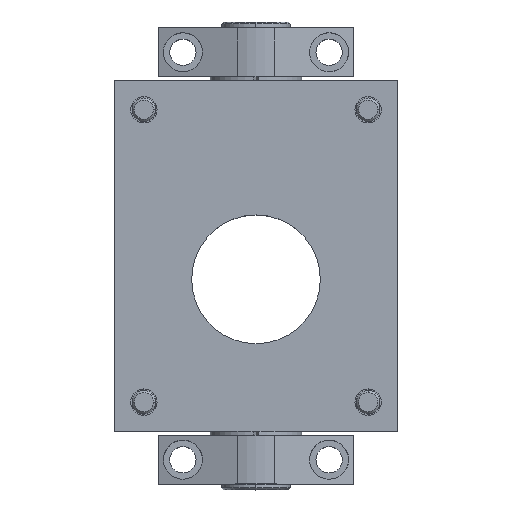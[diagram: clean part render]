
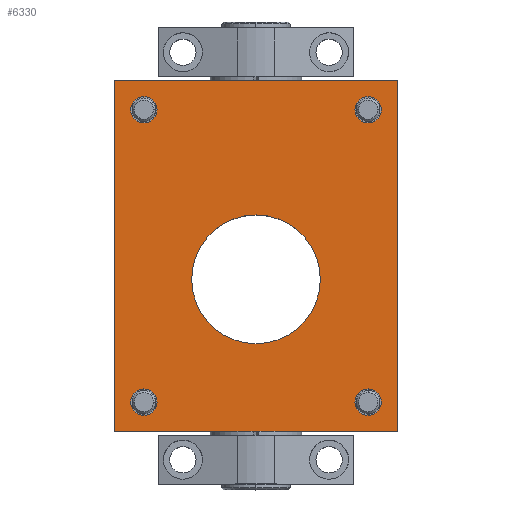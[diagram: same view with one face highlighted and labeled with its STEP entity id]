
A CAD part, top view. The second image highlights one B-rep face of the part: STEP entity #6330.
In plain terms, the highlighted planar face has unit normal (0, 0, 1).
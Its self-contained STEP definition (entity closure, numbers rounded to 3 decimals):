
#42 = CARTESIAN_POINT ( 'NONE',  ( -57.5, 87., -49.5 ) ) ;
#45 = DIRECTION ( 'NONE',  ( 0., -1., 0. ) ) ;
#129 = EDGE_CURVE ( 'NONE', #237, #3510, #3637, .T. ) ;
#148 = CARTESIAN_POINT ( 'NONE',  ( 0., 33., -49.5 ) ) ;
#179 = CIRCLE ( 'NONE', #3176, 6.75 ) ;
#211 = CARTESIAN_POINT ( 'NONE',  ( 72.5, -78., -49.5 ) ) ;
#237 = VERTEX_POINT ( 'NONE', #725 ) ;
#242 = CARTESIAN_POINT ( 'NONE',  ( 0., 0., -49.5 ) ) ;
#244 = CIRCLE ( 'NONE', #5482, 6.75 ) ;
#245 = EDGE_CURVE ( 'NONE', #6577, #3750, #244, .T. ) ;
#270 = CARTESIAN_POINT ( 'NONE',  ( -57.5, -69.75, -49.5 ) ) ;
#277 = AXIS2_PLACEMENT_3D ( 'NONE', #6279, #1631, #4757 ) ;
#366 = CARTESIAN_POINT ( 'NONE',  ( 57.5, 93.75, -49.5 ) ) ;
#381 = CIRCLE ( 'NONE', #1862, 6.75 ) ;
#398 = VERTEX_POINT ( 'NONE', #6479 ) ;
#464 = ORIENTED_EDGE ( 'NONE', *, *, #1015, .T. ) ;
#471 = EDGE_LOOP ( 'NONE', ( #6290, #5856, #2198, #6463 ) ) ;
#473 = VECTOR ( 'NONE', #1387, 1000. ) ;
#526 = DIRECTION ( 'NONE',  ( 0., 1., 0. ) ) ;
#532 = FACE_BOUND ( 'NONE', #3871, .T. ) ;
#685 = CIRCLE ( 'NONE', #2623, 33. ) ;
#725 = CARTESIAN_POINT ( 'NONE',  ( -72.5, 102., -49.5 ) ) ;
#731 = CARTESIAN_POINT ( 'NONE',  ( -72.5, -78., -49.5 ) ) ;
#840 = VERTEX_POINT ( 'NONE', #1011 ) ;
#872 = CIRCLE ( 'NONE', #5477, 6.75 ) ;
#909 = FACE_BOUND ( 'NONE', #2721, .T. ) ;
#965 = CARTESIAN_POINT ( 'NONE',  ( 57.5, 87., -49.5 ) ) ;
#1011 = CARTESIAN_POINT ( 'NONE',  ( -57.5, 80.25, -49.5 ) ) ;
#1015 = EDGE_CURVE ( 'NONE', #2189, #5121, #2065, .T. ) ;
#1066 = DIRECTION ( 'NONE',  ( 0., 0., -1. ) ) ;
#1212 = EDGE_CURVE ( 'NONE', #3510, #1968, #4374, .T. ) ;
#1267 = CARTESIAN_POINT ( 'NONE',  ( -57.5, -63., -49.5 ) ) ;
#1311 = LINE ( 'NONE', #731, #4226 ) ;
#1329 = DIRECTION ( 'NONE',  ( 0., 0., -1. ) ) ;
#1387 = DIRECTION ( 'NONE',  ( 0., -1., 0. ) ) ;
#1438 = AXIS2_PLACEMENT_3D ( 'NONE', #42, #2600, #526 ) ;
#1449 = EDGE_CURVE ( 'NONE', #398, #840, #1633, .T. ) ;
#1502 = FACE_BOUND ( 'NONE', #5911, .T. ) ;
#1532 = ORIENTED_EDGE ( 'NONE', *, *, #3318, .T. ) ;
#1594 = ORIENTED_EDGE ( 'NONE', *, *, #245, .T. ) ;
#1631 = DIRECTION ( 'NONE',  ( 0., 0., -1. ) ) ;
#1633 = CIRCLE ( 'NONE', #1438, 6.75 ) ;
#1776 = DIRECTION ( 'NONE',  ( 0., 0., -1. ) ) ;
#1802 = CARTESIAN_POINT ( 'NONE',  ( -72.5, 102., -49.5 ) ) ;
#1851 = EDGE_CURVE ( 'NONE', #1968, #5274, #1311, .T. ) ;
#1862 = AXIS2_PLACEMENT_3D ( 'NONE', #2350, #1776, #3442 ) ;
#1957 = EDGE_LOOP ( 'NONE', ( #1532, #4262 ) ) ;
#1968 = VERTEX_POINT ( 'NONE', #211 ) ;
#2065 = CIRCLE ( 'NONE', #5805, 6.75 ) ;
#2189 = VERTEX_POINT ( 'NONE', #4324 ) ;
#2198 = ORIENTED_EDGE ( 'NONE', *, *, #1851, .F. ) ;
#2210 = VERTEX_POINT ( 'NONE', #4524 ) ;
#2350 = CARTESIAN_POINT ( 'NONE',  ( -57.5, -63., -49.5 ) ) ;
#2409 = VECTOR ( 'NONE', #3900, 1000. ) ;
#2424 = AXIS2_PLACEMENT_3D ( 'NONE', #6574, #4054, #2969 ) ;
#2543 = FACE_OUTER_BOUND ( 'NONE', #471, .T. ) ;
#2554 = ORIENTED_EDGE ( 'NONE', *, *, #6119, .T. ) ;
#2600 = DIRECTION ( 'NONE',  ( 0., 0., -1. ) ) ;
#2623 = AXIS2_PLACEMENT_3D ( 'NONE', #4129, #1066, #2734 ) ;
#2721 = EDGE_LOOP ( 'NONE', ( #2885, #4839 ) ) ;
#2734 = DIRECTION ( 'NONE',  ( 0., 1., 0. ) ) ;
#2885 = ORIENTED_EDGE ( 'NONE', *, *, #4628, .T. ) ;
#2969 = DIRECTION ( 'NONE',  ( 0., 1., 0. ) ) ;
#2980 = EDGE_CURVE ( 'NONE', #5121, #2189, #872, .T. ) ;
#3081 = ORIENTED_EDGE ( 'NONE', *, *, #2980, .T. ) ;
#3163 = CIRCLE ( 'NONE', #277, 6.75 ) ;
#3176 = AXIS2_PLACEMENT_3D ( 'NONE', #4881, #1329, #4346 ) ;
#3295 = LINE ( 'NONE', #1802, #2409 ) ;
#3318 = EDGE_CURVE ( 'NONE', #4219, #5510, #6237, .T. ) ;
#3442 = DIRECTION ( 'NONE',  ( 0., 1., 0. ) ) ;
#3466 = VECTOR ( 'NONE', #5126, 1000. ) ;
#3479 = CARTESIAN_POINT ( 'NONE',  ( 57.5, -56.25, -49.5 ) ) ;
#3510 = VERTEX_POINT ( 'NONE', #4636 ) ;
#3586 = CARTESIAN_POINT ( 'NONE',  ( 57.5, 87., -49.5 ) ) ;
#3637 = LINE ( 'NONE', #5065, #3466 ) ;
#3750 = VERTEX_POINT ( 'NONE', #4401 ) ;
#3824 = CARTESIAN_POINT ( 'NONE',  ( -72.5, -78., -49.5 ) ) ;
#3871 = EDGE_LOOP ( 'NONE', ( #3888, #2554 ) ) ;
#3888 = ORIENTED_EDGE ( 'NONE', *, *, #1449, .T. ) ;
#3900 = DIRECTION ( 'NONE',  ( 0., 1., 0. ) ) ;
#4036 = CARTESIAN_POINT ( 'NONE',  ( 0., 12., -49.5 ) ) ;
#4054 = DIRECTION ( 'NONE',  ( 0., 0., -1. ) ) ;
#4129 = CARTESIAN_POINT ( 'NONE',  ( 0., 0., -49.5 ) ) ;
#4219 = VERTEX_POINT ( 'NONE', #148 ) ;
#4226 = VECTOR ( 'NONE', #4933, 1000. ) ;
#4262 = ORIENTED_EDGE ( 'NONE', *, *, #6488, .T. ) ;
#4324 = CARTESIAN_POINT ( 'NONE',  ( 57.5, 80.25, -49.5 ) ) ;
#4328 = DIRECTION ( 'NONE',  ( 0., 0., -1. ) ) ;
#4346 = DIRECTION ( 'NONE',  ( 0., 1., 0. ) ) ;
#4374 = LINE ( 'NONE', #6433, #473 ) ;
#4401 = CARTESIAN_POINT ( 'NONE',  ( -57.5, -56.25, -49.5 ) ) ;
#4521 = AXIS2_PLACEMENT_3D ( 'NONE', #242, #5258, #5752 ) ;
#4524 = CARTESIAN_POINT ( 'NONE',  ( 57.5, -69.75, -49.5 ) ) ;
#4628 = EDGE_CURVE ( 'NONE', #5798, #2210, #179, .T. ) ;
#4636 = CARTESIAN_POINT ( 'NONE',  ( 72.5, 102., -49.5 ) ) ;
#4757 = DIRECTION ( 'NONE',  ( 0., 1., 0. ) ) ;
#4839 = ORIENTED_EDGE ( 'NONE', *, *, #5119, .T. ) ;
#4881 = CARTESIAN_POINT ( 'NONE',  ( 57.5, -63., -49.5 ) ) ;
#4933 = DIRECTION ( 'NONE',  ( -1., 0., 0. ) ) ;
#5065 = CARTESIAN_POINT ( 'NONE',  ( 72.5, 102., -49.5 ) ) ;
#5119 = EDGE_CURVE ( 'NONE', #2210, #5798, #5310, .T. ) ;
#5121 = VERTEX_POINT ( 'NONE', #366 ) ;
#5126 = DIRECTION ( 'NONE',  ( 1., 0., 0. ) ) ;
#5258 = DIRECTION ( 'NONE',  ( 0., 0., -1. ) ) ;
#5274 = VERTEX_POINT ( 'NONE', #3824 ) ;
#5308 = EDGE_LOOP ( 'NONE', ( #3081, #464 ) ) ;
#5310 = CIRCLE ( 'NONE', #2424, 6.75 ) ;
#5416 = AXIS2_PLACEMENT_3D ( 'NONE', #4036, #5561, #45 ) ;
#5477 = AXIS2_PLACEMENT_3D ( 'NONE', #3586, #5644, #6192 ) ;
#5482 = AXIS2_PLACEMENT_3D ( 'NONE', #1267, #5722, #5750 ) ;
#5510 = VERTEX_POINT ( 'NONE', #6612 ) ;
#5535 = PLANE ( 'NONE',  #5416 ) ;
#5561 = DIRECTION ( 'NONE',  ( 0., 0., 1. ) ) ;
#5628 = FACE_BOUND ( 'NONE', #1957, .T. ) ;
#5644 = DIRECTION ( 'NONE',  ( 0., 0., -1. ) ) ;
#5722 = DIRECTION ( 'NONE',  ( 0., 0., -1. ) ) ;
#5750 = DIRECTION ( 'NONE',  ( 0., 1., 0. ) ) ;
#5752 = DIRECTION ( 'NONE',  ( 0., 1., 0. ) ) ;
#5798 = VERTEX_POINT ( 'NONE', #3479 ) ;
#5805 = AXIS2_PLACEMENT_3D ( 'NONE', #965, #4328, #6388 ) ;
#5848 = EDGE_CURVE ( 'NONE', #3750, #6577, #381, .T. ) ;
#5856 = ORIENTED_EDGE ( 'NONE', *, *, #6269, .F. ) ;
#5882 = ORIENTED_EDGE ( 'NONE', *, *, #5848, .T. ) ;
#5911 = EDGE_LOOP ( 'NONE', ( #5882, #1594 ) ) ;
#6119 = EDGE_CURVE ( 'NONE', #840, #398, #3163, .T. ) ;
#6139 = FACE_BOUND ( 'NONE', #5308, .T. ) ;
#6192 = DIRECTION ( 'NONE',  ( 0., 1., 0. ) ) ;
#6237 = CIRCLE ( 'NONE', #4521, 33. ) ;
#6269 = EDGE_CURVE ( 'NONE', #5274, #237, #3295, .T. ) ;
#6279 = CARTESIAN_POINT ( 'NONE',  ( -57.5, 87., -49.5 ) ) ;
#6290 = ORIENTED_EDGE ( 'NONE', *, *, #129, .F. ) ;
#6330 = ADVANCED_FACE ( 'NONE', ( #5628, #532, #909, #1502, #6139, #2543 ), #5535, .T. ) ;
#6388 = DIRECTION ( 'NONE',  ( 0., 1., 0. ) ) ;
#6433 = CARTESIAN_POINT ( 'NONE',  ( 72.5, -78., -49.5 ) ) ;
#6463 = ORIENTED_EDGE ( 'NONE', *, *, #1212, .F. ) ;
#6479 = CARTESIAN_POINT ( 'NONE',  ( -57.5, 93.75, -49.5 ) ) ;
#6488 = EDGE_CURVE ( 'NONE', #5510, #4219, #685, .T. ) ;
#6574 = CARTESIAN_POINT ( 'NONE',  ( 57.5, -63., -49.5 ) ) ;
#6577 = VERTEX_POINT ( 'NONE', #270 ) ;
#6612 = CARTESIAN_POINT ( 'NONE',  ( 0., -33., -49.5 ) ) ;
